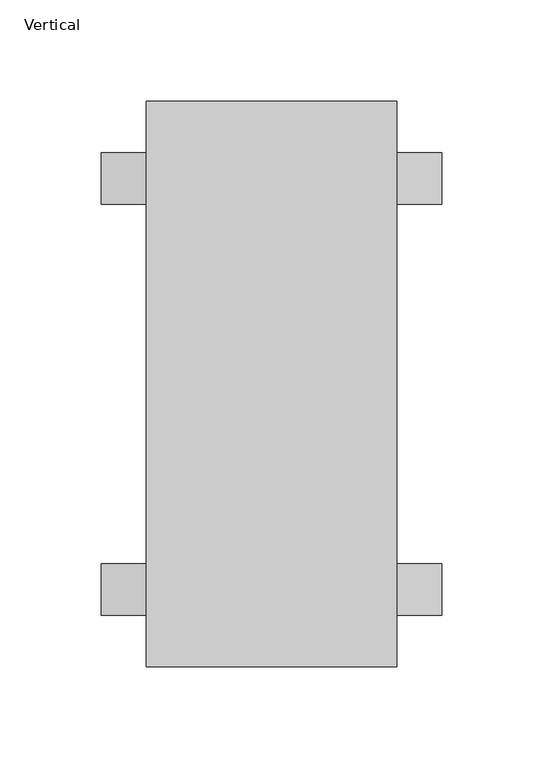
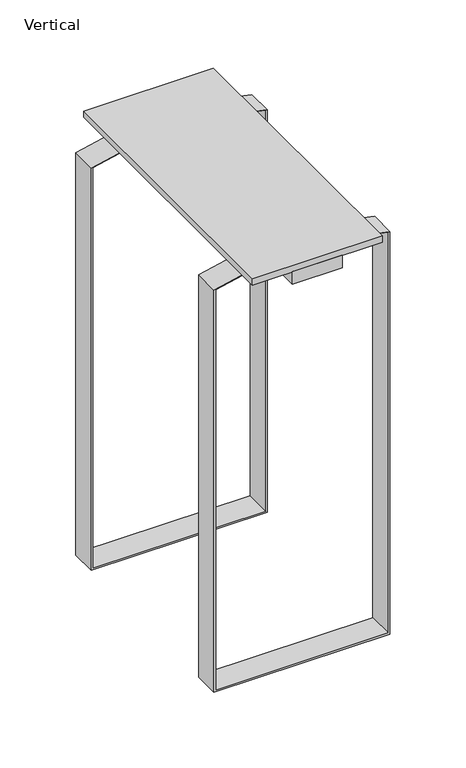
"""IFC4 building model written with IfcOpenShell, lengths in millimetres: furniture geometry, HermanMiller_ThrivePortfolio_Y7813_CPUHolder : Vertical."""

from ifc_helpers import new_model, si_unit, frame, origin, place, context, project, spatial, polyline, outline, extrude, source, transform, mapped, element, save


def vertical_72eab502(model_context):
    return source(origin(), model_context, "Body", "SweptSolid", [
        extrude(outline(polyline([(23.8125, -139.7), (-23.8125, -139.7), (-23.8125, 139.7), (23.8125, 139.7), (23.8125, -139.7)])), frame((0.0, 0.0, 473.075), z_axis=(0.0, 0.0, 1.0), x_axis=(1.0, 0.0, 0.0)), (0.0, 0.0, 1.0), 12.7),
        extrude(outline(polyline([(61.9125, 139.7), (61.9125, -139.7), (-61.9125, -139.7), (-61.9125, 139.7), (61.9125, 139.7)])), frame((0.0, 0.0, 485.775), z_axis=(0.0, 0.0, 1.0), x_axis=(1.0, 0.0, 0.0)), (0.0, 0.0, 1.0), 6.35),
        extrude(outline(polyline([(66.675, -84.1375), (66.675, 84.1375), (473.075, 84.1375), (485.775, 25.4), (485.775, 23.8125), (473.075, 82.55), (68.2625, 82.55), (68.2625, -82.55), (473.075, -82.55), (485.775, -23.8125), (485.775, -25.4), (473.075, -84.1375), (66.675, -84.1375)])), frame((0.0, 88.9, 0.0), z_axis=(0.0, 1.0, 0.0), x_axis=(0.0, 0.0, 1.0)), (0.0, 0.0, 1.0), 25.4),
        extrude(outline(polyline([(68.2625, 82.55), (68.2625, -82.55), (473.075, -82.55), (485.775, -23.8125), (485.775, -25.4), (473.075, -84.1375), (66.675, -84.1375), (66.675, 84.1375), (473.075, 84.1375), (485.775, 25.4), (485.775, 23.8125), (473.075, 82.55), (68.2625, 82.55)])), frame((0.0, -114.3, 0.0), z_axis=(0.0, 1.0, 0.0), x_axis=(0.0, 0.0, 1.0)), (0.0, 0.0, 1.0), 25.4),
    ])


if __name__ == "__main__":
    model = new_model("IFC4")
    model_context = context("Model", 3, world=origin())
    ifc_project = project(units=[si_unit("LENGTHUNIT", "METRE", prefix="MILLI")], contexts=[model_context])
    site = spatial("IfcSite", under=ifc_project)
    building = spatial("IfcBuilding", under=site)
    placement = place(None, origin())
    vertical_shape = vertical_72eab502(model_context)
    element("IfcFurniture", 1, ObjectType="HermanMiller_ThrivePortfolio_Y7813_CPUHolder : Vertical", at=placement, inside=building, context=model_context, shape_type="MappedRepresentation", body=[
        mapped(vertical_shape, transform((0.0, 0.0, 0.0), x_axis=(1.0, 0.0, 0.0), y_axis=(0.0, 1.0, 0.0), z_axis=(0.0, 0.0, 1.0))),
    ])
    save(model, "model.ifc")
